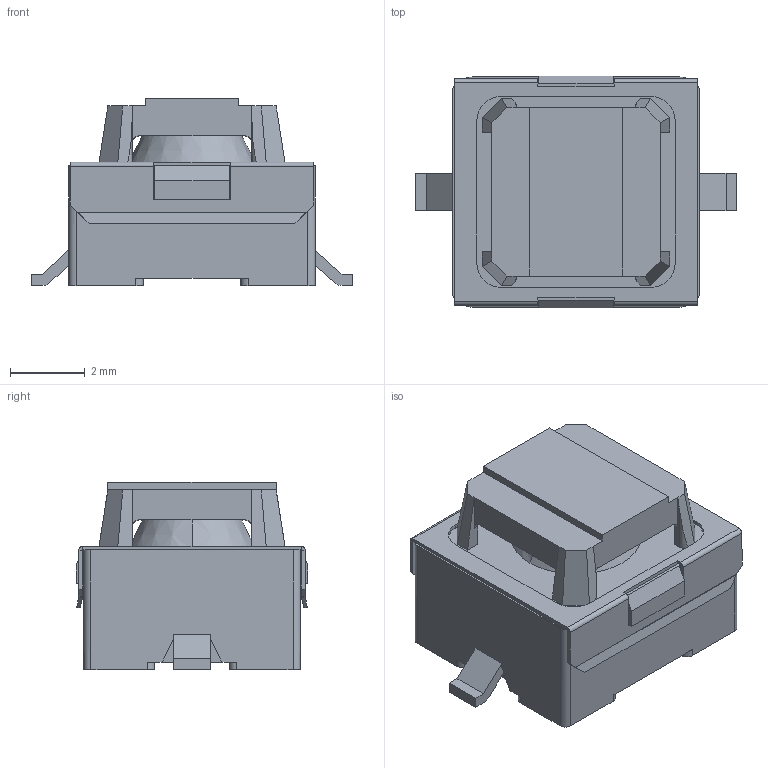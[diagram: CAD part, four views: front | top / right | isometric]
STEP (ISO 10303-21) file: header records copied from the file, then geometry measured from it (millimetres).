
FILE_DESCRIPTION (( 'STEP AP214' ), '1' );
FILE_NAME ('SKPGAA.STEP', '2012-10-02T04:52:35', ( ' ' ), ( '' ), 'SwSTEP 2.0', 'SolidWorks 2010', '' );
FILE_SCHEMA (( 'AUTOMOTIVE_DESIGN' ));
Length unit declared in the file: millimetre
Products named in the file (1): SKPGAA
Bounding box: 8.6 x 6.2 x 5 mm (x, y, z)
Volume: 147.2 mm3; surface area: 261.4 mm2
Topology: 1 solids, 1 shells, 188 faces, 493 edges, 302 vertices
Faces by surface type: plane 136, cylinder 46, bspline 4, cone 2
Entity records: 7811 total; most frequent: CARTESIAN_POINT 1104, ORIENTED_EDGE 986, DIRECTION 915, EDGE_CURVE 493, VECTOR 385, LINE 385, VERTEX_POINT 302, AXIS2_PLACEMENT_3D 265
